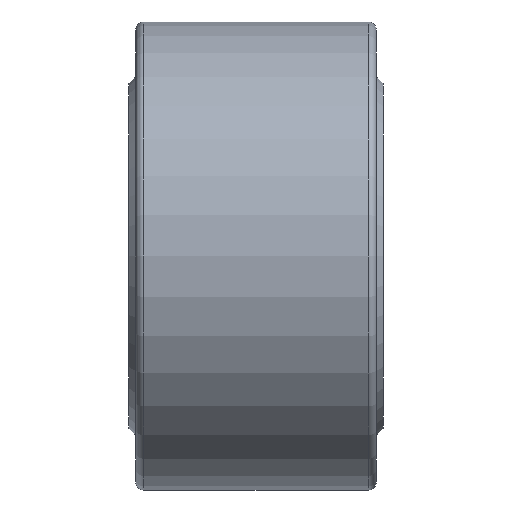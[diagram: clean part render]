
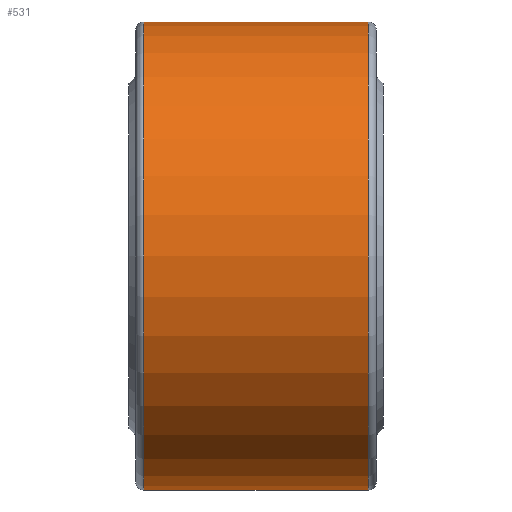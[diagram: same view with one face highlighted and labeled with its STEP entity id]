
A CAD part, front view. The second image highlights one B-rep face of the part: STEP entity #531.
In plain terms, the highlighted cylindrical face has radius 17.5 mm (diameter 35 mm), a full revolution.
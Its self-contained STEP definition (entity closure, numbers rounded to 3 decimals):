
#169=CYLINDRICAL_SURFACE('',#579,17.5);
#185=FACE_BOUND('',#263,.T.);
#222=FACE_OUTER_BOUND('',#262,.T.);
#262=EDGE_LOOP('',(#452));
#263=EDGE_LOOP('',(#453));
#337=CIRCLE('',#578,17.5);
#338=CIRCLE('',#580,17.5);
#375=VERTEX_POINT('',#915);
#376=VERTEX_POINT('',#918);
#413=EDGE_CURVE('',#375,#375,#337,.T.);
#414=EDGE_CURVE('',#376,#376,#338,.T.);
#452=ORIENTED_EDGE('',*,*,#414,.F.);
#453=ORIENTED_EDGE('',*,*,#413,.F.);
#531=ADVANCED_FACE('',(#222,#185),#169,.T.);
#578=AXIS2_PLACEMENT_3D('',#916,#693,#694);
#579=AXIS2_PLACEMENT_3D('',#917,#695,#696);
#580=AXIS2_PLACEMENT_3D('',#919,#697,#698);
#693=DIRECTION('center_axis',(-1.,0.,0.));
#694=DIRECTION('ref_axis',(0.,-1.,0.));
#695=DIRECTION('center_axis',(1.,0.,0.));
#696=DIRECTION('ref_axis',(0.,1.,0.));
#697=DIRECTION('center_axis',(1.,0.,0.));
#698=DIRECTION('ref_axis',(0.,-1.,0.));
#915=CARTESIAN_POINT('',(-8.4,17.5,0.));
#916=CARTESIAN_POINT('Origin',(-8.4,0.,0.));
#917=CARTESIAN_POINT('Origin',(0.,0.,
0.));
#918=CARTESIAN_POINT('',(8.4,17.5,0.));
#919=CARTESIAN_POINT('Origin',(8.4,0.,0.));
